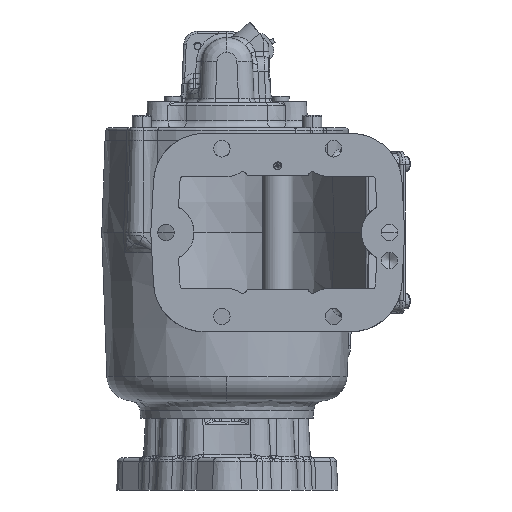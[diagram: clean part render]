
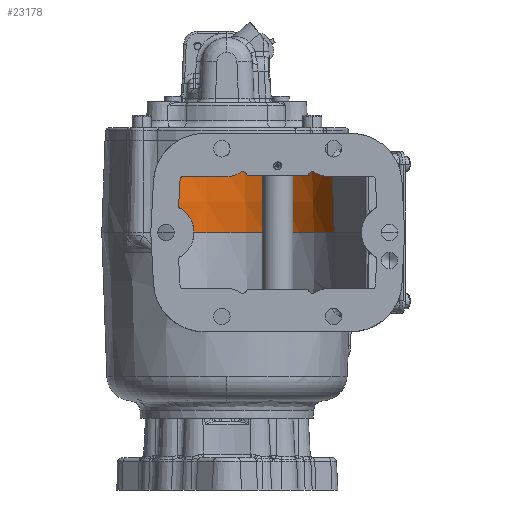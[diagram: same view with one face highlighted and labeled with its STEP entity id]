
A CAD part, front view. The second image highlights one B-rep face of the part: STEP entity #23178.
In plain terms, the highlighted conical face has half-angle 2 degrees and reference radius 71.882 mm.
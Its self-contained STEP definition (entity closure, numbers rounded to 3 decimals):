
#222 = AXIS2_PLACEMENT_3D ( 'NONE', #72745, #42619, #31741 ) ;
#342 = DIRECTION ( 'NONE',  ( 0., 0., -1. ) ) ;
#5568 = DIRECTION ( 'NONE',  ( 0.033, 0.013, -0.999 ) ) ;
#18902 = DIRECTION ( 'NONE',  ( -1., 0., 0. ) ) ;
#23178 = ADVANCED_FACE ( 'NONE', ( #82987 ), #59460, .F. ) ;
#24142 = VERTEX_POINT ( 'NONE', #102136 ) ;
#25655 = VECTOR ( 'NONE', #5568, 1000. ) ;
#31741 = DIRECTION ( 'NONE',  ( -1., 0., 0. ) ) ;
#32625 = VECTOR ( 'NONE', #84332, 1000. ) ;
#33316 = CARTESIAN_POINT ( 'NONE',  ( -103.632, 84.572, 0. ) ) ;
#34392 = CARTESIAN_POINT ( 'NONE',  ( 34.737, 110.094, 19.05 ) ) ;
#40645 = EDGE_CURVE ( 'NONE', #24142, #85270, #64000, .T. ) ;
#42619 = DIRECTION ( 'NONE',  ( 0., 0., -1. ) ) ;
#43166 = ORIENTED_EDGE ( 'NONE', *, *, #68624, .T. ) ;
#46600 = ORIENTED_EDGE ( 'NONE', *, *, #40645, .F. ) ;
#47640 = CARTESIAN_POINT ( 'NONE',  ( -31.75, 84.572, 0. ) ) ;
#50473 = CIRCLE ( 'NONE', #89033, 71.882 ) ;
#51233 = CARTESIAN_POINT ( 'NONE',  ( 34.116, 109.855, 38.1 ) ) ;
#56557 = VERTEX_POINT ( 'NONE', #33316 ) ;
#59460 = CONICAL_SURFACE ( 'NONE', #222, 71.882, 0.035 ) ;
#64000 = CIRCLE ( 'NONE', #74248, 70.552 ) ;
#65545 = VERTEX_POINT ( 'NONE', #88541 ) ;
#65825 = EDGE_LOOP ( 'NONE', ( #46600, #101848, #43166, #125463 ) ) ;
#68624 = EDGE_CURVE ( 'NONE', #56557, #65545, #50473, .T. ) ;
#72745 = CARTESIAN_POINT ( 'NONE',  ( -31.75, 84.572, 0. ) ) ;
#74248 = AXIS2_PLACEMENT_3D ( 'NONE', #76583, #342, #18902 ) ;
#76483 = DIRECTION ( 'NONE',  ( 0., 0., -1. ) ) ;
#76583 = CARTESIAN_POINT ( 'NONE',  ( -31.75, 84.572, 38.1 ) ) ;
#82987 = FACE_OUTER_BOUND ( 'NONE', #65825, .T. ) ;
#84332 = DIRECTION ( 'NONE',  ( -0.035, 0., -0.999 ) ) ;
#85270 = VERTEX_POINT ( 'NONE', #51233 ) ;
#88541 = CARTESIAN_POINT ( 'NONE',  ( 35.358, 110.332, 0. ) ) ;
#88907 = EDGE_CURVE ( 'NONE', #24142, #56557, #93913, .T. ) ;
#89033 = AXIS2_PLACEMENT_3D ( 'NONE', #47640, #76483, #106545 ) ;
#93304 = LINE ( 'NONE', #34392, #25655 ) ;
#93913 = LINE ( 'NONE', #123350, #32625 ) ;
#101848 = ORIENTED_EDGE ( 'NONE', *, *, #88907, .T. ) ;
#102136 = CARTESIAN_POINT ( 'NONE',  ( -102.302, 84.572, 38.1 ) ) ;
#106545 = DIRECTION ( 'NONE',  ( 0.934, 0.358, 0. ) ) ;
#113698 = EDGE_CURVE ( 'NONE', #85270, #65545, #93304, .T. ) ;
#123350 = CARTESIAN_POINT ( 'NONE',  ( -103.632, 84.572, 0. ) ) ;
#125463 = ORIENTED_EDGE ( 'NONE', *, *, #113698, .F. ) ;
